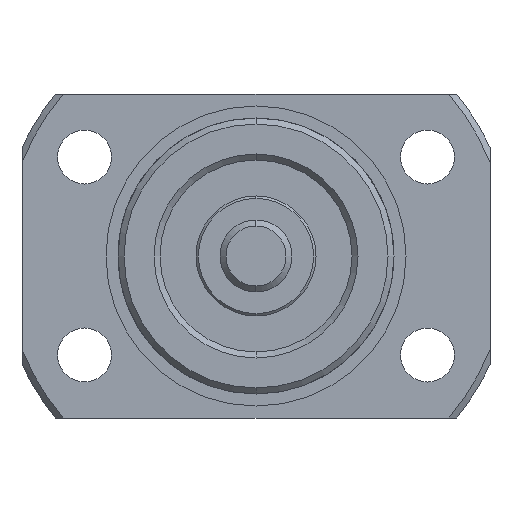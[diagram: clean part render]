
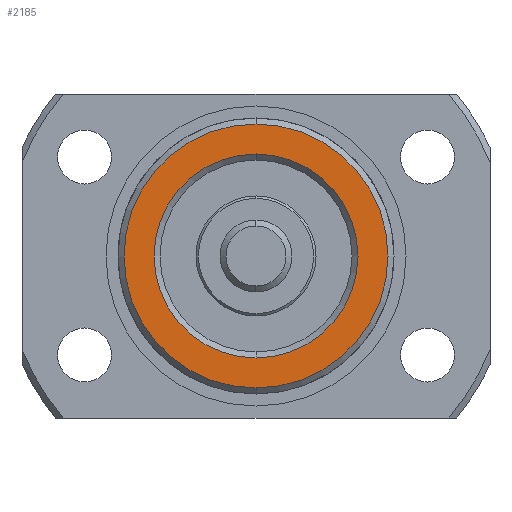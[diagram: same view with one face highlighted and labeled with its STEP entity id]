
A CAD part, left-side view. The second image highlights one B-rep face of the part: STEP entity #2185.
In plain terms, the highlighted planar face has unit normal (-1, 0, 0).
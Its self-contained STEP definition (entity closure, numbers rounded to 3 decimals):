
#815 = DIRECTION ( 'NONE',  ( 0., 0., -1. ) ) ;
#1052 = PLANE ( 'NONE',  #4943 ) ;
#1083 = DIRECTION ( 'NONE',  ( 1., 0., 0. ) ) ;
#1120 = CARTESIAN_POINT ( 'NONE',  ( -30., 11., 0. ) ) ;
#1405 = AXIS2_PLACEMENT_3D ( 'NONE', #2488, #2482, #2484 ) ;
#1406 = AXIS2_PLACEMENT_3D ( 'NONE', #3421, #3416, #3417 ) ;
#1507 = AXIS2_PLACEMENT_3D ( 'NONE', #4341, #4342, #4343 ) ;
#1515 = AXIS2_PLACEMENT_3D ( 'NONE', #4400, #4401, #4402 ) ;
#1674 = FACE_OUTER_BOUND ( 'NONE', #3130, .T. ) ;
#1710 = FACE_BOUND ( 'NONE', #3365, .T. ) ;
#2185 = ADVANCED_FACE ( 'NONE', ( #1710, #1674 ), #1052, .F. ) ;
#2361 = CARTESIAN_POINT ( 'NONE',  ( -30., 0., -8.5 ) ) ;
#2482 = DIRECTION ( 'NONE',  ( -1., 0., 0. ) ) ;
#2484 = DIRECTION ( 'NONE',  ( 0., 0., 1. ) ) ;
#2488 = CARTESIAN_POINT ( 'NONE',  ( -30., 0., 0. ) ) ;
#2791 = CARTESIAN_POINT ( 'NONE',  ( -30., 0., 8.5 ) ) ;
#3130 = EDGE_LOOP ( 'NONE', ( #5817, #5707 ) ) ;
#3365 = EDGE_LOOP ( 'NONE', ( #5684, #5682 ) ) ;
#3416 = DIRECTION ( 'NONE',  ( -1., 0., 0. ) ) ;
#3417 = DIRECTION ( 'NONE',  ( 0., 0., 1. ) ) ;
#3421 = CARTESIAN_POINT ( 'NONE',  ( -30., 0., 0. ) ) ;
#3729 = CIRCLE ( 'NONE', #1405, 8.5 ) ;
#3730 = CIRCLE ( 'NONE', #1406, 11. ) ;
#3932 = CIRCLE ( 'NONE', #1507, 8.5 ) ;
#3962 = CIRCLE ( 'NONE', #1515, 11. ) ;
#4341 = CARTESIAN_POINT ( 'NONE',  ( -30., 0., 0. ) ) ;
#4342 = DIRECTION ( 'NONE',  ( -1., 0., 0. ) ) ;
#4343 = DIRECTION ( 'NONE',  ( 0., 0., 1. ) ) ;
#4400 = CARTESIAN_POINT ( 'NONE',  ( -30., 0., 0. ) ) ;
#4401 = DIRECTION ( 'NONE',  ( -1., 0., 0. ) ) ;
#4402 = DIRECTION ( 'NONE',  ( 0., 0., 1. ) ) ;
#4491 = CARTESIAN_POINT ( 'NONE',  ( -30., 0., -11. ) ) ;
#4525 = CARTESIAN_POINT ( 'NONE',  ( -30., 0., 11. ) ) ;
#4666 = EDGE_CURVE ( 'NONE', #5403, #6164, #3729, .T. ) ;
#4667 = EDGE_CURVE ( 'NONE', #5295, #5329, #3730, .T. ) ;
#4943 = AXIS2_PLACEMENT_3D ( 'NONE', #1120, #1083, #815 ) ;
#5044 = EDGE_CURVE ( 'NONE', #6164, #5403, #3932, .T. ) ;
#5069 = EDGE_CURVE ( 'NONE', #5329, #5295, #3962, .T. ) ;
#5295 = VERTEX_POINT ( 'NONE', #4491 ) ;
#5329 = VERTEX_POINT ( 'NONE', #4525 ) ;
#5403 = VERTEX_POINT ( 'NONE', #2791 ) ;
#5682 = ORIENTED_EDGE ( 'NONE', *, *, #5044, .F. ) ;
#5684 = ORIENTED_EDGE ( 'NONE', *, *, #4666, .F. ) ;
#5707 = ORIENTED_EDGE ( 'NONE', *, *, #5069, .T. ) ;
#5817 = ORIENTED_EDGE ( 'NONE', *, *, #4667, .T. ) ;
#6164 = VERTEX_POINT ( 'NONE', #2361 ) ;
